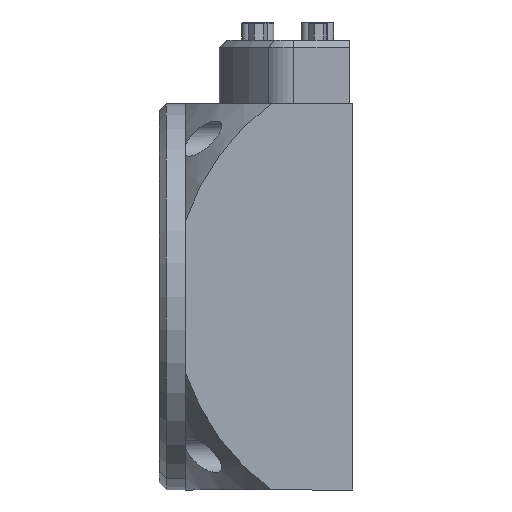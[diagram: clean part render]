
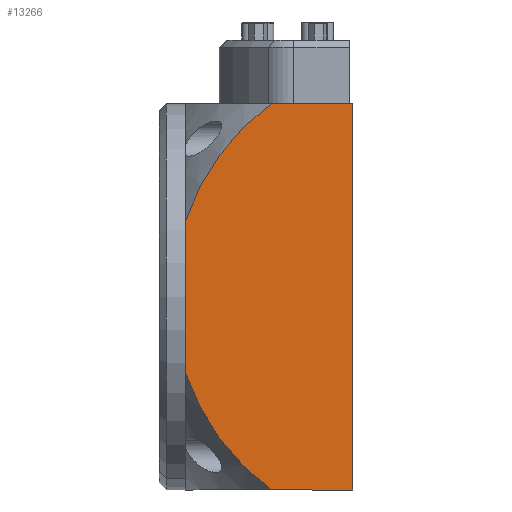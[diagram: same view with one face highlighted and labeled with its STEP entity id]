
A CAD part, left-side view. The second image highlights one B-rep face of the part: STEP entity #13266.
In plain terms, the highlighted planar face has unit normal (-1, 0, 0).
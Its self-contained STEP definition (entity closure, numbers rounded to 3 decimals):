
#718 = CARTESIAN_POINT ( 'NONE',  ( -55., 0., -55. ) ) ;
#1530 = CARTESIAN_POINT ( 'NONE',  ( -55., 0., -55. ) ) ;
#5978 = ORIENTED_EDGE ( 'NONE', *, *, #17565, .T. ) ;
#6470 = CARTESIAN_POINT ( 'NONE',  ( -55., 23.078, -55. ) ) ;
#6471 = VERTEX_POINT ( 'NONE', #26350 ) ;
#9604 = ORIENTED_EDGE ( 'NONE', *, *, #38240, .F. ) ;
#9881 = LINE ( 'NONE', #14688, #19942 ) ;
#10541 = DIRECTION ( 'NONE',  ( 0., 1., 0. ) ) ;
#11414 = CARTESIAN_POINT ( 'NONE',  ( -55., 0., 55. ) ) ;
#11459 = EDGE_LOOP ( 'NONE', ( #39479, #18613, #5978, #42749, #37690, #9604 ) ) ;
#13227 = VERTEX_POINT ( 'NONE', #6470 ) ;
#13266 = ADVANCED_FACE ( 'NONE', ( #39587 ), #38196, .T. ) ;
#14212 = VERTEX_POINT ( 'NONE', #11414 ) ;
#14688 = CARTESIAN_POINT ( 'NONE',  ( -55., 0., -55. ) ) ;
#16615 = AXIS2_PLACEMENT_3D ( 'NONE', #18460, #31585, #21596 ) ;
#17565 = EDGE_CURVE ( 'NONE', #14212, #26715, #36886, .T. ) ;
#18460 = CARTESIAN_POINT ( 'NONE',  ( -55., -17., 0. ) ) ;
#18613 = ORIENTED_EDGE ( 'NONE', *, *, #26661, .T. ) ;
#18896 = VECTOR ( 'NONE', #31505, 1000. ) ;
#19942 = VECTOR ( 'NONE', #21216, 1000. ) ;
#21216 = DIRECTION ( 'NONE',  ( 0., 1., 0. ) ) ;
#21596 = DIRECTION ( 'NONE',  ( 0., 0., 1. ) ) ;
#21820 = EDGE_CURVE ( 'NONE', #26795, #26715, #26316, .T. ) ;
#22550 = CARTESIAN_POINT ( 'NONE',  ( -55., 47.5, 21.703 ) ) ;
#23141 = VECTOR ( 'NONE', #26884, 1000. ) ;
#23217 = DIRECTION ( 'NONE',  ( 0., 0., 1. ) ) ;
#23485 = CARTESIAN_POINT ( 'NONE',  ( -55., 47.5, 0. ) ) ;
#25204 = VECTOR ( 'NONE', #10541, 1000. ) ;
#25428 = CARTESIAN_POINT ( 'NONE',  ( -55., 0., -55. ) ) ;
#25808 = VERTEX_POINT ( 'NONE', #25428 ) ;
#26316 = CIRCLE ( 'NONE', #38270, 68.053 ) ;
#26350 = CARTESIAN_POINT ( 'NONE',  ( -55., 47.5, -21.703 ) ) ;
#26661 = EDGE_CURVE ( 'NONE', #25808, #14212, #31157, .T. ) ;
#26715 = VERTEX_POINT ( 'NONE', #39269 ) ;
#26795 = VERTEX_POINT ( 'NONE', #22550 ) ;
#26884 = DIRECTION ( 'NONE',  ( 0., 0., 1. ) ) ;
#27430 = CARTESIAN_POINT ( 'NONE',  ( -55., 0., 55. ) ) ;
#31157 = LINE ( 'NONE', #1530, #18896 ) ;
#31505 = DIRECTION ( 'NONE',  ( 0., 0., 1. ) ) ;
#31585 = DIRECTION ( 'NONE',  ( 1., 0., 0. ) ) ;
#32195 = LINE ( 'NONE', #23485, #23141 ) ;
#34773 = CIRCLE ( 'NONE', #16615, 68.053 ) ;
#34809 = DIRECTION ( 'NONE',  ( -1., 0., 0. ) ) ;
#36886 = LINE ( 'NONE', #27430, #25204 ) ;
#37690 = ORIENTED_EDGE ( 'NONE', *, *, #43284, .F. ) ;
#38050 = DIRECTION ( 'NONE',  ( 0., 0., 1. ) ) ;
#38196 = PLANE ( 'NONE',  #39547 ) ;
#38240 = EDGE_CURVE ( 'NONE', #13227, #6471, #34773, .T. ) ;
#38270 = AXIS2_PLACEMENT_3D ( 'NONE', #43331, #39784, #23217 ) ;
#39269 = CARTESIAN_POINT ( 'NONE',  ( -55., 23.078, 55. ) ) ;
#39479 = ORIENTED_EDGE ( 'NONE', *, *, #41448, .F. ) ;
#39547 = AXIS2_PLACEMENT_3D ( 'NONE', #718, #34809, #38050 ) ;
#39587 = FACE_OUTER_BOUND ( 'NONE', #11459, .T. ) ;
#39784 = DIRECTION ( 'NONE',  ( 1., 0., 0. ) ) ;
#41448 = EDGE_CURVE ( 'NONE', #25808, #13227, #9881, .T. ) ;
#42749 = ORIENTED_EDGE ( 'NONE', *, *, #21820, .F. ) ;
#43284 = EDGE_CURVE ( 'NONE', #6471, #26795, #32195, .T. ) ;
#43331 = CARTESIAN_POINT ( 'NONE',  ( -55., -17., 0. ) ) ;
